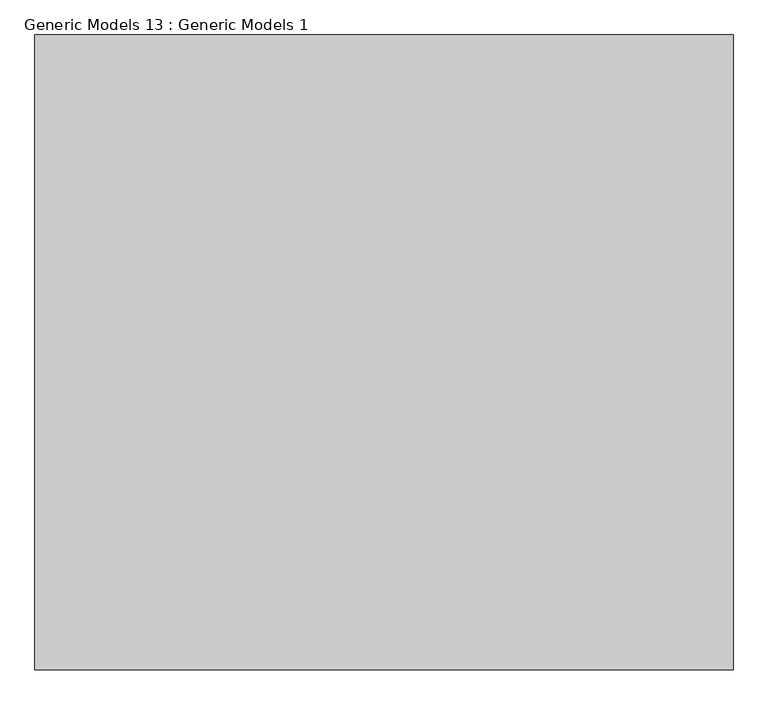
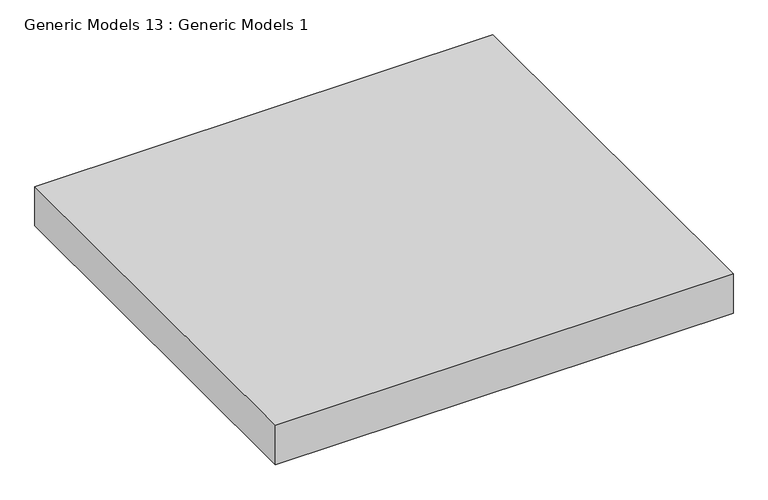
"""IFC4 building model written with IfcOpenShell, lengths in millimetres: proxy geometry, Generic Models 13 : Generic Models 1."""

from ifc_helpers import new_model, si_unit, origin, origin_with_axes, place, context, project, spatial, polyline, outline, extrude, source, transform, mapped, element, save


def generic_models_13_generic_models_1_7978a0e2(model_context):
    return source(origin(), model_context, "Body", "SweptSolid", [
        extrude(outline(polyline([(-4827.0827586, 1556.498394), (-4827.0827586, 2556.498394), (-3727.0827586, 2556.498394), (-3727.0827586, 1556.498394), (-4827.0827586, 1556.498394)])), origin_with_axes(), (0.0, 0.0, 1.0), 100.0),
    ])


if __name__ == "__main__":
    model = new_model("IFC4")
    model_context = context("Model", 3, world=origin())
    ifc_project = project(units=[si_unit("LENGTHUNIT", "METRE", prefix="MILLI")], contexts=[model_context])
    site = spatial("IfcSite", under=ifc_project)
    building = spatial("IfcBuilding", under=site)
    placement = place(None, origin())
    generic_models_13_generic_models_1_shape = generic_models_13_generic_models_1_7978a0e2(model_context)
    element("IfcBuildingElementProxy", 1, Name="Generic Models 13 : Generic Models 1", ObjectType="Generic Models 13 : Generic Models 1", at=placement, inside=building, context=model_context, shape_type="MappedRepresentation", body=[
        mapped(generic_models_13_generic_models_1_shape, transform((0.0, 0.0, 0.0), x_axis=(1.0, 0.0, 0.0), y_axis=(0.0, 1.0, 0.0), z_axis=(0.0, 0.0, 1.0))),
    ])
    save(model, "model.ifc")
